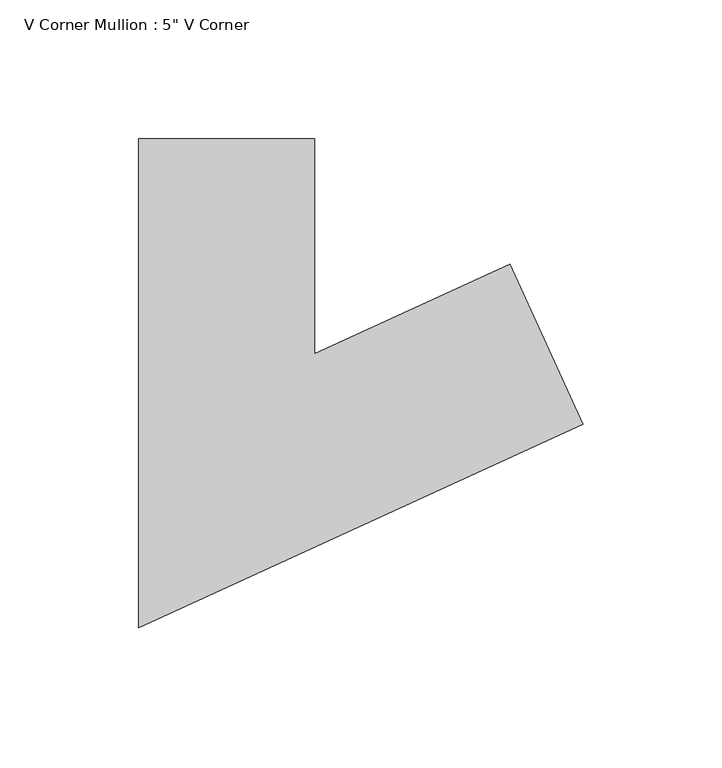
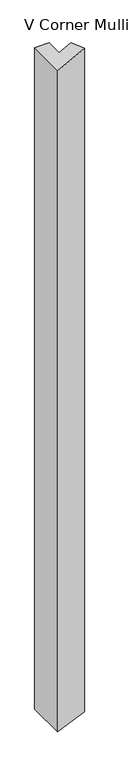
"""IFC4 building model written with IfcOpenShell, lengths in millimetres: member geometry."""

import ifcopenshell
import ifcopenshell.guid

model = None  # the IFC model being written
_history = None  # IfcOwnerHistory: only IFC2X3 demands one
_inside = {}  # id of a spatial element -> (the spatial element, [elements in it])
_under = {}  # id of a project, library or spatial element -> (it, [spatial elements below it])
_declared = {}  # id of a project -> (the project, [libraries it declares])
_typed = {}  # id of a type object -> (the type object, [elements of that type])
_made_of = {}  # id of a material, layer set ... -> (it, [elements and type objects made of it])


def new_model(schema):
    """Start an empty IFC model of exactly this schema.

    Asked for "IFC4X3", IfcOpenShell would pick the latest addendum, in which some entities
    have other attributes; the version numbers below select the first issue.
    IFC2X3 requires an IfcOwnerHistory on every rooted entity: one is made here for all.
    """
    global model, _history
    if schema == "IFC4X3":
        model = ifcopenshell.file(schema_version=(4, 3, 0, 0))
    else:
        model = ifcopenshell.file(schema=schema)
    _inside.clear()
    _under.clear()
    _declared.clear()
    _typed.clear()
    _made_of.clear()
    _history = None
    if model.schema == "IFC2X3":
        org = make("IfcOrganization", Name="unknown")
        user = make(
            "IfcPersonAndOrganization",
            ThePerson=make("IfcPerson", FamilyName="unknown"),
            TheOrganization=org,
        )
        app = make(
            "IfcApplication",
            ApplicationDeveloper=org,
            Version="unknown",
            ApplicationFullName="unknown",
            ApplicationIdentifier="unknown",
        )
        _history = make(
            "IfcOwnerHistory",
            OwningUser=user,
            OwningApplication=app,
            ChangeAction="ADDED",
            CreationDate=0,
        )
    return model


def make(cls, **values):
    """One entity of the class cls with the attributes given. An attribute that is None is left unset."""
    return model.create_entity(
        cls, **{name: value for name, value in values.items() if value is not None}
    )


def rooted(cls, **values):
    """An entity with a GlobalId (a new one), such as an element, a storey or a relation."""
    return make(cls, GlobalId=ifcopenshell.guid.new(), OwnerHistory=_history, **values)


def si_unit(unit_type, name, prefix=None):
    """IfcSIUnit, for example si_unit("LENGTHUNIT", "METRE", prefix="MILLI")."""
    return make("IfcSIUnit", UnitType=unit_type, Prefix=prefix, Name=name)


def assignment(units):
    """IfcUnitAssignment: the units of a project."""
    return None if units is None else make("IfcUnitAssignment", Units=units)


def point(xyz):
    """IfcCartesianPoint."""
    return None if xyz is None else make("IfcCartesianPoint", Coordinates=xyz)


def direction(xyz):
    """IfcDirection."""
    return None if xyz is None else make("IfcDirection", DirectionRatios=xyz)


def frame(location, z_axis=None, x_axis=None):
    """IfcAxis2Placement3D, a coordinate frame: its origin and axes. An axis left out is left unset."""
    return make(
        "IfcAxis2Placement3D",
        Location=point(location),
        Axis=direction(z_axis),
        RefDirection=direction(x_axis),
    )


def origin():
    """The frame at (0, 0, 0) with its axes left unset."""
    return frame((0.0, 0.0, 0.0))


def place(relative_to, where):
    """IfcLocalPlacement: puts the frame where relative to a parent placement (None: the world)."""
    return make(
        "IfcLocalPlacement", PlacementRelTo=relative_to, RelativePlacement=where
    )


def context(
    kind, dimensions, precision=None, world=None, true_north=None, identifier=None
):
    """IfcGeometricRepresentationContext, for example the 3D "Model" context."""
    return make(
        "IfcGeometricRepresentationContext",
        ContextIdentifier=identifier,
        ContextType=kind,
        CoordinateSpaceDimension=dimensions,
        Precision=precision,
        WorldCoordinateSystem=world,
        TrueNorth=true_north,
    )


def project(units=None, contexts=None):
    """IfcProject with its units and contexts."""
    return rooted(
        "IfcProject",
        Name="project",
        RepresentationContexts=contexts,
        UnitsInContext=assignment(units),
    )


def spatial(cls, under=None, at=None, **own):
    """A site, building, storey or space (cls), placed at a placement, below another one or the project."""
    s = rooted(cls, ObjectPlacement=at, **own)
    if under is not None:
        _under.setdefault(under.id(), (under, []))[1].append(s)
    return s


def faces_of(points, faces, orient=None, outer=None):
    """IfcFace entities. A face is a list of loops; a loop is a list of indices into points, from 0.

    orient and outer hold one flag for each loop. By default every Orientation is true, the
    first loop of a face is its IfcFaceOuterBound and the others are IfcFaceBound.
    """
    made = []
    for i, loops in enumerate(faces):
        bounds = []
        for j, loop in enumerate(loops):
            is_outer = j == 0 if outer is None else outer[i][j]
            bounds.append(
                make(
                    "IfcFaceOuterBound" if is_outer else "IfcFaceBound",
                    Bound=make("IfcPolyLoop", Polygon=[points[k] for k in loop]),
                    Orientation=True if orient is None else orient[i][j],
                )
            )
        made.append(make("IfcFace", Bounds=bounds))
    return made


def faceted_brep(points, faces, orient=None, outer=None, voids=None):
    """IfcFacetedBrep: a solid bounded by flat faces; with voids (closed shells), ...WithVoids."""
    shared = [point(p) for p in points]
    hull = make("IfcClosedShell", CfsFaces=faces_of(shared, faces, orient, outer))
    if voids is None:
        return make("IfcFacetedBrep", Outer=hull)
    return make(
        "IfcFacetedBrepWithVoids",
        Outer=hull,
        Voids=[
            make(cls, CfsFaces=faces_of(shared, fs, o, b)) for cls, fs, o, b in voids
        ],
    )


def shape(context_of_items, identifier, shape_type, items):
    """IfcShapeRepresentation: the items that make up one representation, for example the "Body"."""
    return make(
        "IfcShapeRepresentation",
        ContextOfItems=context_of_items,
        RepresentationIdentifier=identifier,
        RepresentationType=shape_type,
        Items=items,
    )


def source(mapping_origin, context_of_items, identifier, shape_type, items):
    """IfcRepresentationMap: a shape defined once, which mapped items show again and again."""
    return make(
        "IfcRepresentationMap",
        MappingOrigin=mapping_origin,
        MappedRepresentation=shape(context_of_items, identifier, shape_type, items),
    )


def transform(
    local_origin,
    x_axis=None,
    y_axis=None,
    z_axis=None,
    scale=None,
    scale2=None,
    scale3=None,
    uniform=True,
):
    """IfcCartesianTransformationOperator3D, or its non-uniform kind. x_axis, y_axis, z_axis: its Axis1, 2, 3."""
    if uniform:
        return make(
            "IfcCartesianTransformationOperator3D",
            Axis1=direction(x_axis),
            Axis2=direction(y_axis),
            LocalOrigin=point(local_origin),
            Scale=scale,
            Axis3=direction(z_axis),
        )
    return make(
        "IfcCartesianTransformationOperator3DnonUniform",
        Axis1=direction(x_axis),
        Axis2=direction(y_axis),
        LocalOrigin=point(local_origin),
        Scale=scale,
        Axis3=direction(z_axis),
        Scale2=scale2,
        Scale3=scale3,
    )


def mapped(mapping_source, mapping_target):
    """IfcMappedItem: shows the shape of a source again, moved by a transform."""
    return make(
        "IfcMappedItem", MappingSource=mapping_source, MappingTarget=mapping_target
    )


def made_of(thing, what):
    """Note that an element or type object is made of a material, layer set ...; save() writes the relation."""
    if what is not None:
        _made_of.setdefault(what.id(), (what, []))[1].append(thing)
    return thing


def element(
    cls,
    number,
    at=None,
    inside=None,
    cuts=None,
    type_object=None,
    material=None,
    context=None,
    identifier="Body",
    shape_type=None,
    held_by="IfcProductDefinitionShape",
    body=None,
    shapes=None,
    **own,
):
    """One element of the class cls, such as IfcWall. Its Tag is "e" and its number.

    at: its placement. inside: the storey or other place that contains it. cuts: it is an
    opening in that element (IfcRelVoidsElement). A single representation is given by context,
    identifier, shape_type and body (its items); several are given by shapes. held_by: the class
    of the entity that holds the representations. save() writes the other relations.
    """
    e = rooted(cls, Tag="e%d" % number, ObjectPlacement=at, **own)
    if body is not None:
        shapes = [shape(context, identifier, shape_type, body)]
    if shapes is not None:
        e.Representation = make(held_by, Representations=shapes)
    if inside is not None:
        _inside.setdefault(inside.id(), (inside, []))[1].append(e)
    if cuts is not None:
        rooted(
            "IfcRelVoidsElement", RelatingBuildingElement=cuts, RelatedOpeningElement=e
        )
    if type_object is not None:
        _typed.setdefault(type_object.id(), (type_object, []))[1].append(e)
    return made_of(e, material)


def aggregate(whole, parts):
    """IfcRelAggregates: a whole, such as a stair, and the parts it consists of."""
    return rooted("IfcRelAggregates", RelatingObject=whole, RelatedObjects=parts)


def save(model, path):
    """Write the relations noted so far, then the file.

    IfcRelAggregates (storeys below a building ...), IfcRelContainedInSpatialStructure (elements
    in a storey), IfcRelDefinesByType, IfcRelAssociatesMaterial and IfcRelDeclares: one each for
    every whole, place, type object, material and project.
    """
    for whole, parts in _under.values():
        aggregate(whole, parts)
    for where, things in _inside.values():
        rooted(
            "IfcRelContainedInSpatialStructure",
            RelatedElements=things,
            RelatingStructure=where,
        )
    for kind, things in _typed.values():
        rooted("IfcRelDefinesByType", RelatedObjects=things, RelatingType=kind)
    for what, things in _made_of.values():
        rooted("IfcRelAssociatesMaterial", RelatedObjects=things, RelatingMaterial=what)
    for by, libraries in _declared.values():
        rooted("IfcRelDeclares", RelatingContext=by, RelatedDefinitions=libraries)
    model.write(path)


def member_f0ee25d4(model_context):
    return source(origin(), model_context, "Body", "Brep", [
        faceted_brep([(61.49523, 18.2208415, 1.4614421), (87.9205542, -39.5195451, 2.0894433), (87.9205542, -39.5195451, -3094.229476), (61.49523, 18.2208415, -3093.3346769), (-9.0228811, -14.0523047, -0.2144299), (-9.0228811, -14.0523047, -3090.9468331), (-9.0228811, 63.5, -0.2144299), (-9.0228811, 63.5, -3090.9468331), (-72.5228811, 63.5, -1.7235156), (-72.5228811, 63.5, -3088.7966327), (-72.5228811, -112.9476953, -1.7235156), (-72.5228811, -112.9476953, -3088.7966327)], [[[0, 1, 2, 3]], [[4, 0, 3, 5]], [[6, 4, 5, 7]], [[8, 6, 7, 9]], [[10, 8, 9, 11]], [[1, 10, 11, 2]], [[1, 0, 4, 6, 8, 10]], [[2, 11, 9, 7, 5, 3]]]),
    ])


if __name__ == "__main__":
    model = new_model("IFC4")
    model_context = context("Model", 3, world=origin())
    ifc_project = project(units=[si_unit("LENGTHUNIT", "METRE", prefix="MILLI")], contexts=[model_context])
    site = spatial("IfcSite", under=ifc_project)
    building = spatial("IfcBuilding", under=site)
    placement = place(None, origin())
    member_shape = member_f0ee25d4(model_context)
    element("IfcMember", 1, ObjectType="V Corner Mullion : 5\" V Corner", at=placement, inside=building, context=model_context, shape_type="MappedRepresentation", body=[
        mapped(member_shape, transform((0.0, 0.0, 0.0), x_axis=(1.0, 0.0, 0.0), y_axis=(0.0, 1.0, 0.0), z_axis=(0.0, 0.0, 1.0))),
    ])
    save(model, "model.ifc")
